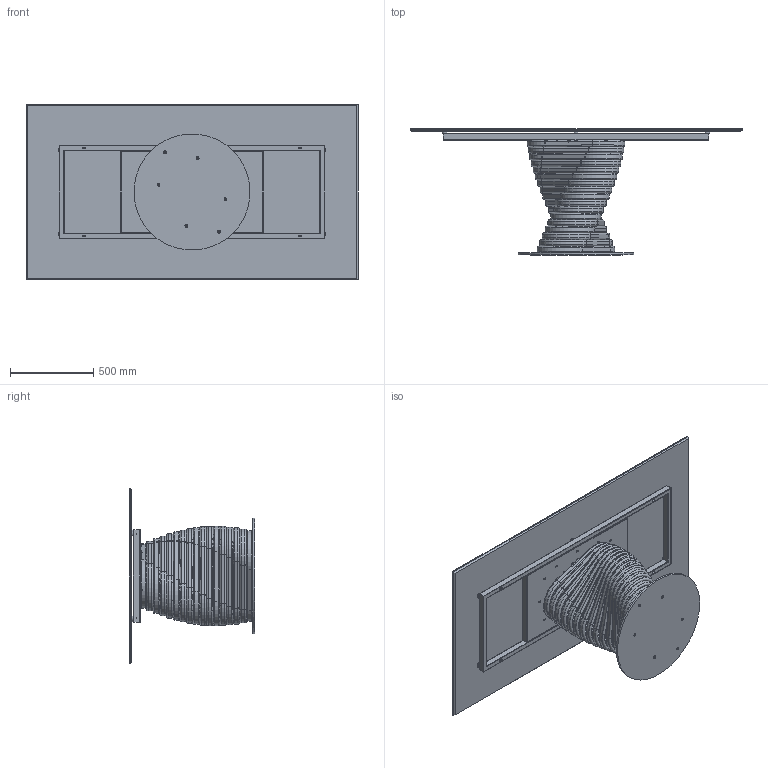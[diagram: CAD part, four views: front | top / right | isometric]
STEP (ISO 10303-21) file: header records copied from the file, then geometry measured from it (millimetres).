
FILE_DESCRIPTION (( 'STEP AP203' ), '1' );
FILE_NAME ('RO21C.STEP', '2024-08-07T13:37:42', ( '' ), ( '' ), 'SwSTEP 2.0', 'SolidWorks 2022', '' );
FILE_SCHEMA (( 'CONFIG_CONTROL_DESIGN' ));
Length unit declared in the file: millimetre
Products named in the file (15): ROBX00000MED-00-Anello rotolo MEDIO_Default<A macchina>; ROBX00000-00-ROTOLO BASE 17 ANELLI; TTAV01-05-TELAIO UNIVERSALE X TAVOLI 180 240cm; RO21C; ROBX00000SUP-00-Anello rotolo SUPERIORE_Default<A macchina>; 434070-00-PIEDINO TPV GOMMA NERO D. 30x8max18_filo estetico; M8xXXmm_M8x20mm; M8xXXmm_hex_M8X20mm; COLLO TELAIO UNIVERSALE TTAV01 CON FERRAMENTA_MTG TOP CRISTALLO VERNICIATO-CERAMICA; TTAV01_02-05-VASSOIO IRRIGIDIMENTO TELAIO UNIVERSALE; ROBX00000INF-00-Anello rotolo INFERIORE_Default<A macchina>; TTAV01_01-05-TELAIO UNIVERSALE X TAVOLI 180 240cm; ROB200000-00-PIASTRA BASE_Ø70cm; rondella M8_8X24; K2XCMXX-00-Piani Rettangolari in ceramica_2000 x 1060
Assembly tree (44 placements, depth 4):
  RO21C
    ROB200000-00-PIASTRA BASE_Ø70cm
    ROBX00000-00-ROTOLO BASE 17 ANELLI
      ROBX00000INF-00-Anello rotolo INFERIORE_Default<A macchina>
      ROBX00000MED-00-Anello rotolo MEDIO_Default<A macchina>  x15
      ROBX00000SUP-00-Anello rotolo SUPERIORE_Default<A macchina>
    M8xXXmm_hex_M8X20mm  x6
    COLLO TELAIO UNIVERSALE TTAV01 CON FERRAMENTA_MTG TOP CRISTALLO VERNICIATO-CERAMICA
      TTAV01-05-TELAIO UNIVERSALE X TAVOLI 180 240cm
        TTAV01_02-05-VASSOIO IRRIGIDIMENTO TELAIO UNIVERSALE
        TTAV01_01-05-TELAIO UNIVERSALE X TAVOLI 180 240cm
      434070-00-PIEDINO TPV GOMMA NERO D. 30x8max18_filo estetico  x6
    rondella M8_8X24  x4
    M8xXXmm_M8x20mm  x4
    K2XCMXX-00-Piani Rettangolari in ceramica_2000 x 1060
Bounding box: 2000 x 758 x 1060 mm (x, y, z)
Volume: 46922311.2 mm3; surface area: 16402737 mm2
Topology: 99 solids, 99 shells, 1510 faces, 3584 edges, 2246 vertices
Faces by surface type: plane 628, cylinder 554, torus 220, cone 100, sphere 8
Entity records: 21132 total; most frequent: CARTESIAN_POINT 4797, DIRECTION 3023, ORIENTED_EDGE 2808, EDGE_CURVE 1404, AXIS2_PLACEMENT_3D 1125, VERTEX_POINT 891, LINE 773, VECTOR 773
